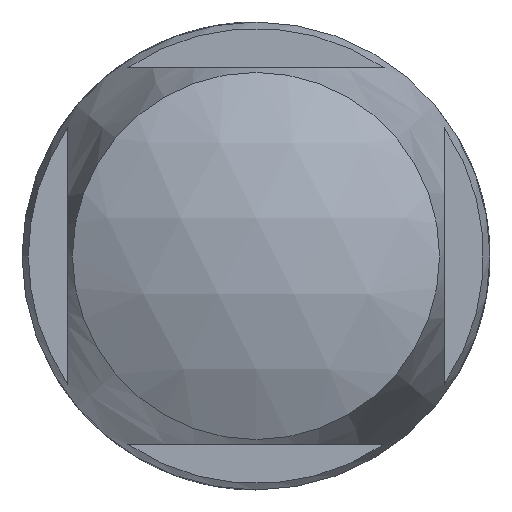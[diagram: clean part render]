
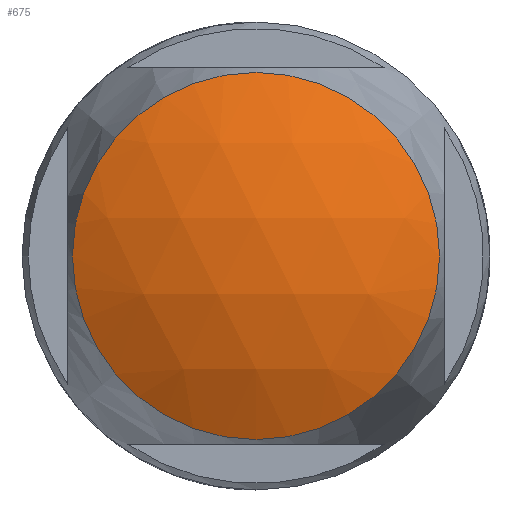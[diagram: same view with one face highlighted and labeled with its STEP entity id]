
A CAD part, front view. The second image highlights one B-rep face of the part: STEP entity #675.
In plain terms, the highlighted spherical face has radius 16.235 mm.
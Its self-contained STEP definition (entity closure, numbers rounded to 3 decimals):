
#19=SPHERICAL_SURFACE('',#742,16.235);
#242=FACE_OUTER_BOUND('',#299,.T.);
#299=EDGE_LOOP('',(#607));
#328=CIRCLE('',#743,7.806);
#387=VERTEX_POINT('',#1324);
#468=EDGE_CURVE('',#387,#387,#328,.T.);
#607=ORIENTED_EDGE('',*,*,#468,.F.);
#675=ADVANCED_FACE('',(#242),#19,.T.);
#742=AXIS2_PLACEMENT_3D('',#1323,#916,#917);
#743=AXIS2_PLACEMENT_3D('',#1325,#918,#919);
#916=DIRECTION('center_axis',(0.,0.,1.));
#917=DIRECTION('ref_axis',(1.,0.,0.));
#918=DIRECTION('center_axis',(0.,1.,0.));
#919=DIRECTION('ref_axis',(-1.,0.,0.));
#1323=CARTESIAN_POINT('Origin',(0.,-39.765,
0.));
#1324=CARTESIAN_POINT('',(-7.806,-54.,0.));
#1325=CARTESIAN_POINT('Origin',(0.,-54.,0.));
